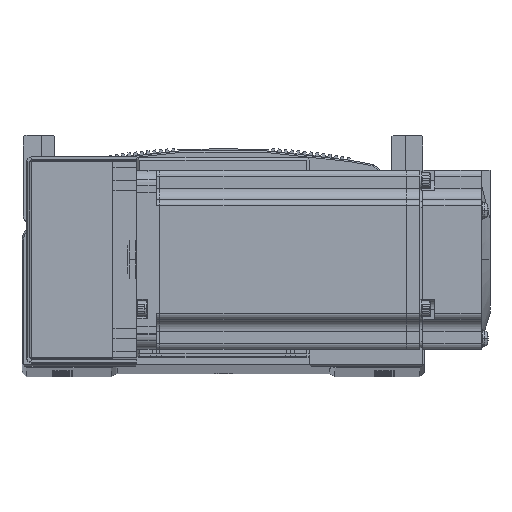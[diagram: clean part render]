
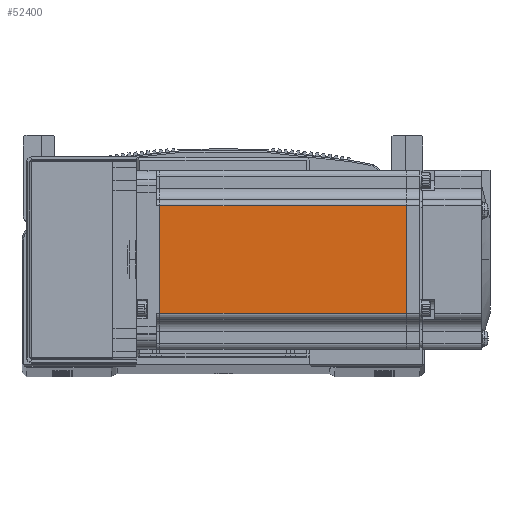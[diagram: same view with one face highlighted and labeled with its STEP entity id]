
A CAD part, top view. The second image highlights one B-rep face of the part: STEP entity #52400.
In plain terms, the highlighted planar face has unit normal (0, 0, 1) as drawn and (0, 0, -1) by its records, which use the part's own axes.
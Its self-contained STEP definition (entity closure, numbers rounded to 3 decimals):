
#48 = DIRECTION ( 'NONE',  ( -1., 0., 0. ) ) ;
#51 = CARTESIAN_POINT ( 'NONE',  ( -6.5, -18., -30. ) ) ;
#151 = CARTESIAN_POINT ( 'NONE',  ( -6.5, 18., -30. ) ) ;
#152 = DIRECTION ( 'NONE',  ( 1., 0., 0. ) ) ;
#2127 = EDGE_CURVE ( 'NONE', #42440, #42288, #45203, .T. ) ;
#2134 = EDGE_CURVE ( 'NONE', #42434, #42374, #45215, .T. ) ;
#2168 = EDGE_CURVE ( 'NONE', #42374, #42440, #45039, .T. ) ;
#2237 = EDGE_CURVE ( 'NONE', #42288, #42434, #72196, .T. ) ;
#4302 = AXIS2_PLACEMENT_3D ( 'NONE', #32701, #32719, #32708 ) ;
#5053 = DIRECTION ( 'NONE',  ( 0., 1., 0. ) ) ;
#5066 = CARTESIAN_POINT ( 'NONE',  ( -90.45, 25., -30. ) ) ;
#8160 = FACE_OUTER_BOUND ( 'NONE', #83660, .T. ) ;
#15540 = CARTESIAN_POINT ( 'NONE',  ( -7.75, 25., -30. ) ) ;
#23806 = CARTESIAN_POINT ( 'NONE',  ( -90.45, 18., -30. ) ) ;
#23842 = CARTESIAN_POINT ( 'NONE',  ( -7.75, 18., -30. ) ) ;
#23844 = CARTESIAN_POINT ( 'NONE',  ( -7.75, -18., -30. ) ) ;
#23868 = CARTESIAN_POINT ( 'NONE',  ( -90.45, -18., -30. ) ) ;
#32701 = CARTESIAN_POINT ( 'NONE',  ( -6.5, 25., -30. ) ) ;
#32708 = DIRECTION ( 'NONE',  ( -1., 0., 0. ) ) ;
#32719 = DIRECTION ( 'NONE',  ( 0., 0., -1. ) ) ;
#32726 = PLANE ( 'NONE',  #4302 ) ;
#42288 = VERTEX_POINT ( 'NONE', #23806 ) ;
#42374 = VERTEX_POINT ( 'NONE', #23844 ) ;
#42434 = VERTEX_POINT ( 'NONE', #23842 ) ;
#42440 = VERTEX_POINT ( 'NONE', #23868 ) ;
#45039 = LINE ( 'NONE', #51, #45230 ) ;
#45203 = LINE ( 'NONE', #5066, #45221 ) ;
#45215 = LINE ( 'NONE', #15540, #45222 ) ;
#45221 = VECTOR ( 'NONE', #5053, 1000. ) ;
#45222 = VECTOR ( 'NONE', #87474, 1000. ) ;
#45230 = VECTOR ( 'NONE', #48, 1000. ) ;
#52400 = ADVANCED_FACE ( 'NONE', ( #8160 ), #32726, .T. ) ;
#55797 = ORIENTED_EDGE ( 'NONE', *, *, #2237, .T. ) ;
#55818 = ORIENTED_EDGE ( 'NONE', *, *, #2168, .T. ) ;
#55850 = ORIENTED_EDGE ( 'NONE', *, *, #2134, .T. ) ;
#55851 = ORIENTED_EDGE ( 'NONE', *, *, #2127, .T. ) ;
#72196 = LINE ( 'NONE', #151, #72199 ) ;
#72199 = VECTOR ( 'NONE', #152, 1000. ) ;
#83660 = EDGE_LOOP ( 'NONE', ( #55850, #55818, #55851, #55797 ) ) ;
#87474 = DIRECTION ( 'NONE',  ( 0., -1., 0. ) ) ;
